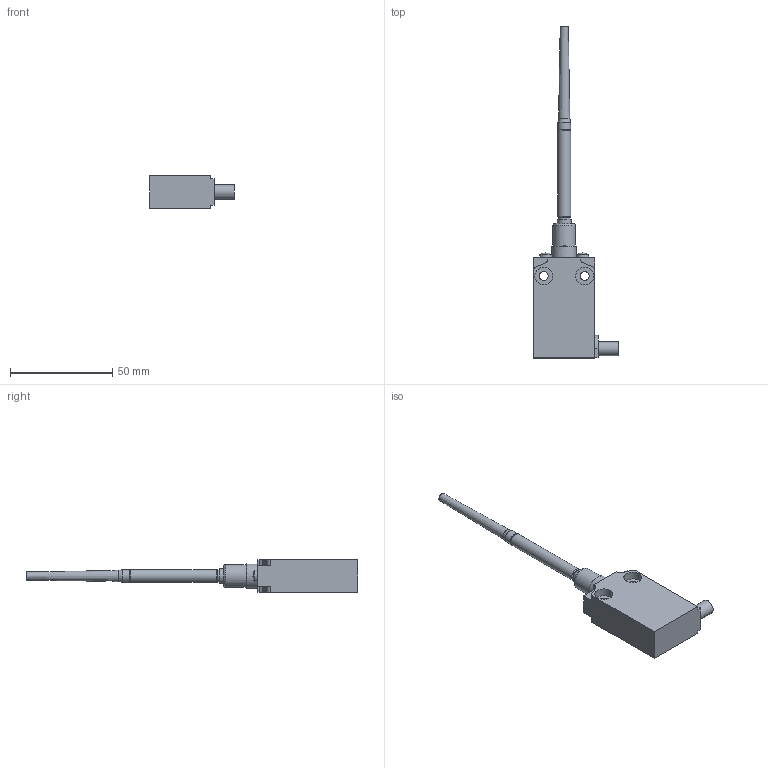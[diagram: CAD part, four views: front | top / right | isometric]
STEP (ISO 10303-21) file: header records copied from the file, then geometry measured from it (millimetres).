
FILE_DESCRIPTION(/* description */ (''),/* implementation_level */ '2;1');
FILE_NAME(/* name */ 'C:\Users\servizio.tecnico\Desktop\CADENAS\3D\EP1_STP\STP_EP1_G92U.stp',/* time_stamp */ '2017-09-01T16:10:27+02:00',/* author */ ('servizio.tecnico'),/* organization */ (''),/* preprocessor_version */ 'ST-DEVELOPER v16.1',/* originating_system */ 'Autodesk Inventor 2016',/* authorisation */ '');
FILE_SCHEMA (('AUTOMOTIVE_DESIGN { 1 0 10303 214 3 1 1 }'));
Length unit declared in the file: millimetre
Products named in the file (3): Product; EP1G92; BASE ASSI 
Assembly tree (2 placements, depth 3):
  BASE ASSI 
    EP1G92
      Product
Bounding box: 41.5 x 162.2 x 16 mm (x, y, z)
Volume: 26762.8 mm3; surface area: 9430.8 mm2
Topology: 3 solids, 3 shells, 97 faces, 236 edges, 153 vertices
Faces by surface type: plane 49, cylinder 30, cone 10, torus 6, sphere 2
Full cylindrical faces by diameter (mm): 4.4 x2, 5.9 x1, 6.2 x1, 6.25 x1, 7 x2, 8.7 x4, 11 x1, 12 x1
Entity records: 2735 total; most frequent: DIRECTION 480, CARTESIAN_POINT 456, ORIENTED_EDGE 394, EDGE_CURVE 197, AXIS2_PLACEMENT_3D 189, VERTEX_POINT 141, EDGE_LOOP 136, LINE 102
